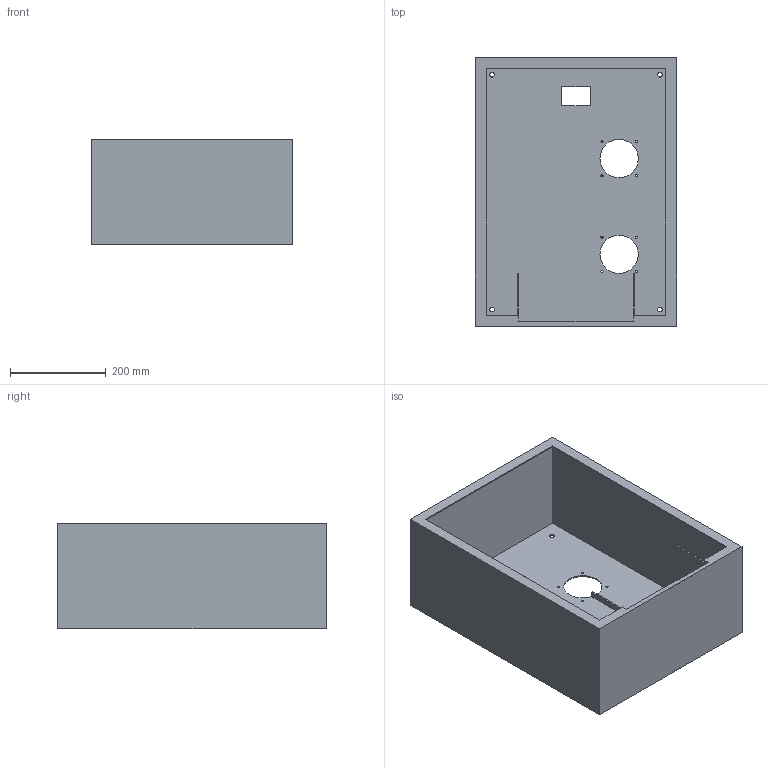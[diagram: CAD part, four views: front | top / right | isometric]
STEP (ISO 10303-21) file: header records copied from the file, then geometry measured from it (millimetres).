
FILE_DESCRIPTION(('Open CASCADE Model'),'2;1');
FILE_NAME('Open CASCADE Shape Model','2026-09-13T22:11:35',('Author'),( 'Open CASCADE'),'Open CASCADE STEP processor 7.9','Open CASCADE 7.9' ,'Unknown');
FILE_SCHEMA(('AUTOMOTIVE_DESIGN { 1 0 10303 214 1 1 1 1 }'));
Length unit declared in the file: millimetre
Products named in the file (4): Open CASCADE STEP translator 7.9 1; Open CASCADE STEP translator 7.9 1.1; Open CASCADE STEP translator 7.9 1.2; Open CASCADE STEP translator 7.9 1.3
Assembly tree (3 placements, depth 2):
  Open CASCADE STEP translator 7.9 1
    Open CASCADE STEP translator 7.9 1.1
    Open CASCADE STEP translator 7.9 1.2
    Open CASCADE STEP translator 7.9 1.3
Bounding box: 420 x 560 x 220 mm (x, y, z)
Volume: 1744399.7 mm3; surface area: 1406196.7 mm2
Topology: 3 solids, 3 shells, 100 faces, 258 edges, 172 vertices
Faces by surface type: plane 78, cylinder 22
Full cylindrical faces by diameter (mm): 3.4 x4, 4.5 x8, 6 x4, 10 x4, 80 x2
Entity records: 6413 total; most frequent: CARTESIAN_POINT 1289, DIRECTION 847, LINE 519, VECTOR 519, ORIENTED_EDGE 516, PCURVE 516, DEFINITIONAL_REPRESENTATION 516, EDGE_CURVE 258
